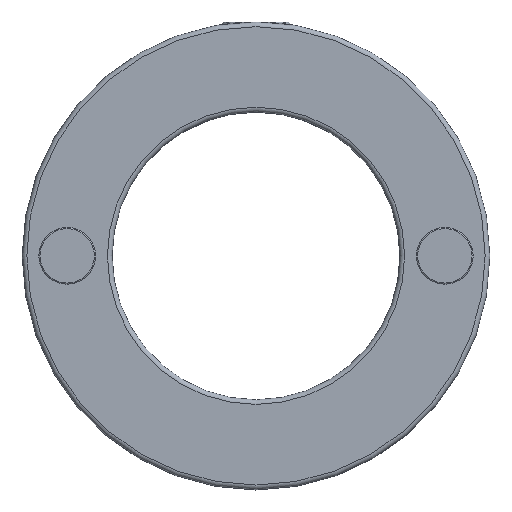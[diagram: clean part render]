
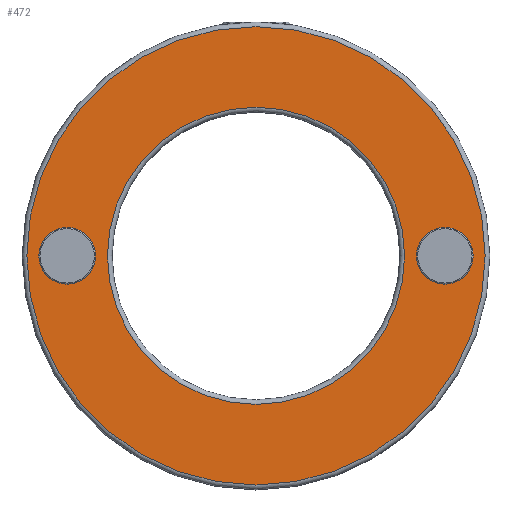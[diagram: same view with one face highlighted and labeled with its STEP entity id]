
A CAD part, top view. The second image highlights one B-rep face of the part: STEP entity #472.
In plain terms, the highlighted planar face has unit normal (0, 0, 1).
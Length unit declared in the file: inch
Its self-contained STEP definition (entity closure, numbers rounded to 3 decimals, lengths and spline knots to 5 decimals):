
#24=FACE_BOUND('',#167,.T.);
#25=FACE_BOUND('',#168,.T.);
#26=FACE_BOUND('',#169,.T.);
#47=PLANE('',#544);
#135=FACE_OUTER_BOUND('',#166,.T.);
#166=EDGE_LOOP('',(#388));
#167=EDGE_LOOP('',(#389));
#168=EDGE_LOOP('',(#390));
#169=EDGE_LOOP('',(#391));
#196=CIRCLE('',#517,0.09843);
#198=CIRCLE('',#520,0.09843);
#199=CIRCLE('',#522,0.79625);
#210=CIRCLE('',#535,0.51625);
#226=VERTEX_POINT('',#746);
#228=VERTEX_POINT('',#752);
#229=VERTEX_POINT('',#756);
#237=VERTEX_POINT('',#776);
#272=EDGE_CURVE('',#226,#226,#196,.T.);
#275=EDGE_CURVE('',#228,#228,#198,.T.);
#276=EDGE_CURVE('',#229,#229,#199,.T.);
#287=EDGE_CURVE('',#237,#237,#210,.T.);
#388=ORIENTED_EDGE('',*,*,#276,.T.);
#389=ORIENTED_EDGE('',*,*,#272,.T.);
#390=ORIENTED_EDGE('',*,*,#275,.T.);
#391=ORIENTED_EDGE('',*,*,#287,.T.);
#472=ADVANCED_FACE('',(#135,#24,#25,#26),#47,.T.);
#517=AXIS2_PLACEMENT_3D('',#748,#599,#600);
#520=AXIS2_PLACEMENT_3D('',#754,#606,#607);
#522=AXIS2_PLACEMENT_3D('',#757,#610,#611);
#535=AXIS2_PLACEMENT_3D('',#778,#636,#637);
#544=AXIS2_PLACEMENT_3D('',#867,#657,#658);
#599=DIRECTION('center_axis',(0.,0.,-1.));
#600=DIRECTION('ref_axis',(1.,0.,0.));
#606=DIRECTION('center_axis',(0.,0.,-1.));
#607=DIRECTION('ref_axis',(1.,0.,0.));
#610=DIRECTION('center_axis',(0.,0.,1.));
#611=DIRECTION('ref_axis',(1.,0.,0.));
#636=DIRECTION('center_axis',(0.,0.,-1.));
#637=DIRECTION('ref_axis',(1.,0.,0.));
#657=DIRECTION('center_axis',(0.,0.,1.));
#658=DIRECTION('ref_axis',(1.,0.,0.));
#746=CARTESIAN_POINT('',(-0.75468,0.,0.625));
#748=CARTESIAN_POINT('Origin',(-0.65625,0.,0.625));
#752=CARTESIAN_POINT('',(0.55782,0.,0.625));
#754=CARTESIAN_POINT('Origin',(0.65625,0.,0.625));
#756=CARTESIAN_POINT('',(-0.79625,0.,0.625));
#757=CARTESIAN_POINT('Origin',(0.,0.,0.625));
#776=CARTESIAN_POINT('',(-0.51625,0.,0.625));
#778=CARTESIAN_POINT('Origin',(0.,0.,0.625));
#867=CARTESIAN_POINT('Origin',(0.,0.,0.625));
